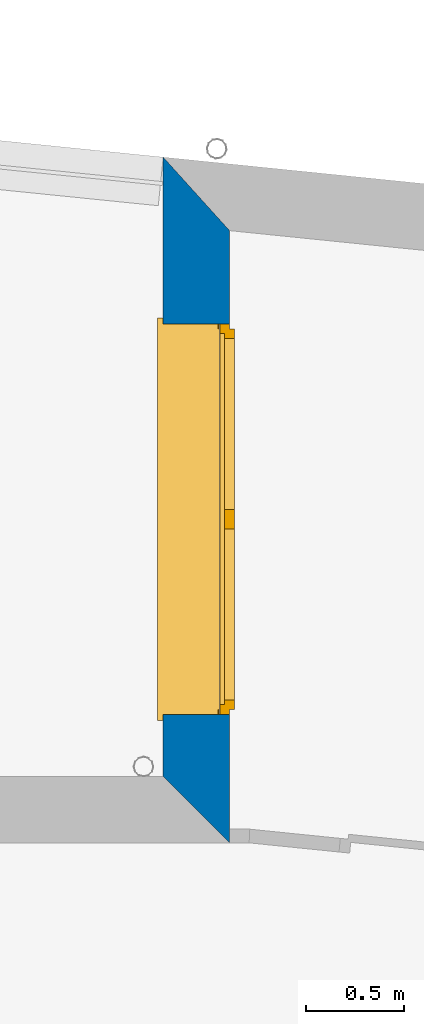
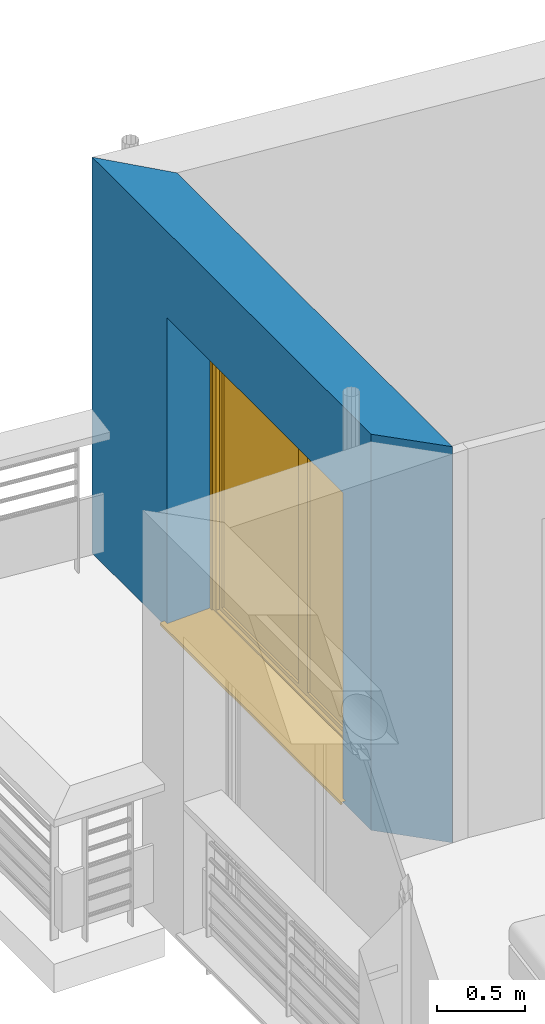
# One storey, part 62 of 164: 1 wall, 1 window, 1 opening.
"""IFC2X3 building model written with IfcOpenShell, lengths in millimetres."""

from ifc_helpers import new_model, entity, si_unit, converted_unit, derived_unit, money_unit, direction, frame, origin_with_axes, place, context, subcontext, project, spatial, polyline, outline, extrude, open_shell, faceted_brep, surface_model, source, transform, mapped, material, layer, layer_set, layer_usage, type_object, element, fill, save


model = new_model("IFC2X3")

# Units and contexts
model_context = context("Model", 3, precision=0.01, world=origin_with_axes(), true_north=direction((0.0, 1.0)))
body_context = subcontext(model_context, "Body", "Model", "MODEL_VIEW")
ifc_project = project(units=[si_unit("LENGTHUNIT", "METRE", prefix="MILLI"), si_unit("AREAUNIT", "SQUARE_METRE"), si_unit("VOLUMEUNIT", "CUBIC_METRE"), converted_unit("PLANEANGLEUNIT", "DEGREE", entity("IfcPlaneAngleMeasure", 0.0174532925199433), si_unit("PLANEANGLEUNIT", "RADIAN"), dimensions=[0, 0, 0, 0, 0, 0, 0]), money_unit("USD"), converted_unit("TIMEUNIT", "Year", entity("IfcTimeMeasure", 31557600.0), si_unit("TIMEUNIT", "SECOND"), dimensions=[0, 0, 1, 0, 0, 0, 0]), si_unit("MASSUNIT", "GRAM", prefix="KILO"), si_unit("THERMODYNAMICTEMPERATUREUNIT", "DEGREE_CELSIUS"), si_unit("LUMINOUSINTENSITYUNIT", "LUMEN"), si_unit("ENERGYUNIT", "JOULE", prefix="MEGA"), derived_unit("THERMALCONDUCTANCEUNIT", [(si_unit("POWERUNIT", "WATT"), 1), (si_unit("LENGTHUNIT", "METRE"), -1), (si_unit("THERMODYNAMICTEMPERATUREUNIT", "KELVIN"), -1)]), derived_unit("SPECIFICHEATCAPACITYUNIT", [(si_unit("ENERGYUNIT", "JOULE"), 1), (si_unit("MASSUNIT", "GRAM", prefix="KILO"), -1), (si_unit("THERMODYNAMICTEMPERATUREUNIT", "KELVIN"), -1)]), derived_unit("MASSDENSITYUNIT", [(si_unit("MASSUNIT", "GRAM", prefix="KILO"), 1), (si_unit("VOLUMEUNIT", "CUBIC_METRE"), -1)])], contexts=[model_context])

# Site, building, storey
site_placement = place(None, origin_with_axes())
site = spatial("IfcSite", under=ifc_project, at=site_placement, Name="Site", CompositionType="ELEMENT")
building_placement = place(site_placement, origin_with_axes())
building = spatial("IfcBuilding", under=site, at=building_placement, Name="Bâtiment", CompositionType="ELEMENT")
storey_placement = place(building_placement, frame((0.0, 0.0, 5750.0), z_axis=(0.0, 0.0, 1.0), x_axis=(1.0, 0.0, 0.0)))
storey = spatial("IfcBuildingStorey", under=building, at=storey_placement, Name="Etage1", CompositionType="ELEMENT", Elevation=5750.0)

# Wall, opening, window
ifc_material_1 = material(Name="Parpaing 312445824")
ifc_layer_1 = layer(ifc_material_1, 180.0, ventilated="UNKNOWN")
ifc_material_2 = material(Name="Isolant styromousse 301821074")
ifc_layer_2 = layer(ifc_material_2, 160.0, ventilated="UNKNOWN")
ifc_layer_set = layer_set([ifc_layer_1, ifc_layer_2], Name="isol int 18+16 0018356637")
ifc_layer_usage = layer_usage(ifc_layer_set, "AXIS2", "POSITIVE", 0.0)
wall_type = type_object("IfcWallType", Name="isol int 18+16 0018356637 340", PredefinedType="NOTDEFINED")
wall_placement = place(storey_placement, frame((2218134.233344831, -603995.4743528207, 0.0), z_axis=(0.0, 0.0, 1.0), x_axis=(0.0, -1.0, 0.0)))
wall = element("IfcWallStandardCase", 1, at=wall_placement, inside=storey, type_object=wall_type, material=ifc_layer_usage, Name="Mur-143", context=body_context, shape_type="SweptSolid", body=[
    extrude(outline(polyline([(0.0, 0.0), (3171.913547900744, 0.0), (3511.913547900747, 340.0000000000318), (376.3032956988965, 340.0000000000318), (0.0, 0.0)])), origin_with_axes(), (0.0, 0.0, 1.0), 2750.0),
])
opening_placement = place(wall_placement, frame((1854.033429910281, 0.0, 0.0), z_axis=(0.0, 0.0, 1.0), x_axis=(1.0, 0.0, 0.0)))
opening = element("IfcOpeningElement", 2, at=opening_placement, cuts=wall, Name="Fen-207", context=body_context, shape_type="Brep", body=[
    faceted_brep([(-1000.0, 290.0000000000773, 2150.0), (-1000.0, 341.0000000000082, 2150.0), (-1000.0, 341.0000000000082, 0.0), (-1000.0, 290.0000000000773, 0.0), (-1000.0, 280.0000000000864, 2150.0), (-1000.0, 280.0000000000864, 2400.0), (-1000.0, 530.0000000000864, 2400.0), (-1000.0, 530.0000000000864, 2150.0), (1000.0, 341.0000000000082, 2150.0), (1000.0, 341.0000000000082, 0.0), (1000.0, 290.0000000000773, 0.0), (1000.0, -0.9999999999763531, 0.0), (-1000.0, -0.9999999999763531, 0.0), (-1000.0, -0.9999999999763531, 2150.0), (1000.0, 280.0000000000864, 2150.0), (1000.0, 280.0000000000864, 2400.0), (1000.0, 530.0000000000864, 2400.0), (1000.0, 530.0000000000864, 2150.0), (1000.0, 290.0000000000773, 2150.0), (1000.0, -0.9999999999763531, 2150.0)], [[[0, 1, 2, 3]], [[1, 0, 4, 5, 6, 7]], [[1, 8, 9, 2]], [[10, 11, 12, 3, 2, 9]], [[4, 0, 3, 12, 13]], [[4, 14, 15, 5]], [[6, 5, 15, 16]], [[7, 6, 16, 17]], [[8, 1, 7, 17]], [[8, 18, 10, 9]], [[18, 14, 19, 11, 10]], [[13, 12, 11, 19]], [[14, 4, 13, 19]], [[18, 8, 17, 16, 15, 14]]]),
])
window_style = type_object("IfcWindowStyle", Name="Fenêtre châssis double variable 27", ConstructionType="NOTDEFINED", OperationType="DOUBLE_PANEL_VERTICAL", ParameterTakesPrecedence=False, Sizeable=False)
shared_shape = source(origin_with_axes(), body_context, "Body", "SurfaceModel", [
    surface_model("IfcShellBasedSurfaceModel", [(-1000.0, -51.00000000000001, 40.00000000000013), (1000.0, -51.00000000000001, 40.0), (1000.0, -51.00000000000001, 50.0), (-1000.0, -51.00000000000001, 50.00000000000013), (-1030.0, -369.9999999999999, 28.96551724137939), (1030.0, -369.9999999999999, 28.96551724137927), (1030.0, -339.9999999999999, 30.00324289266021), (1000.0, -339.9999999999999, 30.00324289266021), (-1000.0, -339.9999999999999, 30.00324289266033), (-1030.0, -339.9999999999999, 30.00324289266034), (-1030.0, -369.9999999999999, 8.965517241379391), (1030.0, -369.9999999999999, 8.965517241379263), (-1030.0, -359.9999999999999, 18.96551724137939), (1030.0, -359.9999999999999, 18.96551724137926)], [open_shell([[[0, 1, 2, 3]], [[4, 5, 6, 7, 1, 0, 8, 9]], [[10, 11, 5, 4]], [[12, 13, 11, 10]]])]),
    faceted_brep([(1000.0, -60.00000000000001, 2400.0), (1000.0, 190.0, 2400.0), (997.0, 190.0, 2400.0), (997.0, -60.00000000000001, 2400.0), (1000.0, -60.00000000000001, 2150.0), (1000.0, 190.0, 2150.0), (997.0, 190.0, 2150.0), (997.0, -60.00000000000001, 2150.0)], [[[0, 1, 2, 3]], [[0, 4, 5, 1]], [[1, 5, 6, 2]], [[3, 2, 6, 7]], [[4, 0, 3, 7]], [[5, 4, 7, 6]]]),
    faceted_brep([(-997.0000000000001, -59.99999999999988, 2400.0), (-997.0000000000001, 190.0000000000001, 2400.0), (-1000.0, 190.0000000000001, 2400.0), (-1000.0, -59.99999999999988, 2400.0), (-997.0000000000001, -59.99999999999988, 2150.0), (-997.0000000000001, 190.0000000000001, 2150.0), (-1000.0, 190.0000000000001, 2150.0), (-1000.0, -59.99999999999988, 2150.0)], [[[0, 1, 2, 3]], [[0, 4, 5, 1]], [[1, 5, 6, 2]], [[3, 2, 6, 7]], [[4, 0, 3, 7]], [[5, 4, 7, 6]]]),
    faceted_brep([(997.0, -60.0, 2150.0), (997.0, -60.0, 2400.0), (-997.0, -59.99999999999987, 2400.0), (-997.0, -59.99999999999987, 2150.0), (997.0, -56.99999999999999, 2150.0), (997.0, -56.99999999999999, 2397.0), (997.0, 187.0, 2397.0), (997.0, 187.0, 2153.0), (997.0, -37.99999999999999, 2153.0), (997.0, -37.99999999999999, 2150.0), (997.0, 190.0, 2150.0), (997.0, 190.0, 2400.0), (-997.0, 190.0000000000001, 2400.0), (-997.0, 190.0000000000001, 2150.0), (-997.0, -37.99999999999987, 2150.0), (-997.0, -37.99999999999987, 2153.0), (-997.0, 187.0000000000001, 2153.0), (-997.0, 187.0000000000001, 2397.0), (-997.0, -56.99999999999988, 2397.0), (-997.0, -56.99999999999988, 2150.0)], [[[0, 1, 2, 3]], [[0, 4, 5, 6, 7, 8, 9, 10, 11, 1]], [[1, 11, 12, 2]], [[3, 2, 12, 13, 14, 15, 16, 17, 18, 19]], [[4, 0, 3, 19]], [[5, 4, 19, 18]], [[6, 5, 18, 17]], [[7, 6, 17, 16]], [[8, 7, 16, 15]], [[9, 8, 15, 14]], [[10, 9, 14, 13]], [[11, 10, 13, 12]]]),
    faceted_brep([(994.0, -40.37442957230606, 2256.419644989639), (994.0, -35.54711042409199, 2238.403844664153), (994.0, -27.66471820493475, 2221.5), (994.0, -16.9667554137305, 2206.22172576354), (994.0, -3.778274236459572, 2193.033244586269), (994.0, 11.50000000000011, 2182.335281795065), (994.0, 28.40384466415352, 2174.452889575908), (994.0, 46.4196449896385, 2169.625570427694), (994.0, 65.00000000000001, 2168.0), (994.0, 83.58035501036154, 2169.625570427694), (994.0, 101.5961553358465, 2174.452889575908), (994.0, 118.4999999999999, 2182.335281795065), (994.0, 133.7782742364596, 2193.033244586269), (994.0, 146.9667554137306, 2206.22172576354), (994.0, 157.6647182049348, 2221.5), (994.0, 165.5471104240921, 2238.403844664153), (994.0, 170.3744295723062, 2256.419644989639), (994.0, 171.9999999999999, 2275.0), (994.0, 170.3744295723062, 2293.580355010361), (994.0, 165.5471104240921, 2311.596155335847), (994.0, 157.6647182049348, 2328.5), (994.0, 146.9667554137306, 2343.77827423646), (994.0, 133.7782742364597, 2356.96675541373), (994.0, 118.5, 2367.664718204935), (994.0, 101.5961553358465, 2375.547110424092), (994.0, 83.58035501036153, 2380.374429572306), (994.0, 64.99999999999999, 2382.0), (994.0, 46.41964498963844, 2380.374429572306), (994.0, 28.40384466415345, 2375.547110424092), (994.0, 11.5, 2367.664718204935), (994.0, -3.778274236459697, 2356.96675541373), (994.0, -16.96675541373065, 2343.77827423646), (994.0, -27.66471820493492, 2328.5), (994.0, -35.54711042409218, 2311.596155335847), (994.0, -40.37442957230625, 2293.580355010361), (994.0, -41.99999999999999, 2275.0), (-994.0, -40.37442957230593, 2256.419644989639), (-994.0, -35.54711042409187, 2238.403844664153), (-994.0, -27.66471820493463, 2221.5), (-994.0, -16.96675541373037, 2206.22172576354), (-994.0, -3.778274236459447, 2193.033244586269), (-994.0, 11.50000000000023, 2182.335281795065), (-994.0, 28.40384466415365, 2174.452889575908), (-994.0, 46.41964498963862, 2169.625570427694), (-994.0, 65.00000000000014, 2168.0), (-994.0, 83.58035501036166, 2169.625570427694), (-994.0, 101.5961553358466, 2174.452889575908), (-994.0, 118.5000000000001, 2182.335281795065), (-994.0, 133.7782742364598, 2193.033244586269), (-994.0, 146.9667554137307, 2206.22172576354), (-994.0, 157.6647182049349, 2221.5), (-994.0, 165.5471104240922, 2238.403844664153), (-994.0, 170.3744295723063, 2256.419644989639), (-994.0, 172.0, 2275.0), (-994.0, 170.3744295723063, 2293.580355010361), (-994.0, 165.5471104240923, 2311.596155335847), (-994.0, 157.664718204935, 2328.5), (-994.0, 146.9667554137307, 2343.77827423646), (-994.0, 133.7782742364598, 2356.96675541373), (-994.0, 118.5000000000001, 2367.664718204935), (-994.0, 101.5961553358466, 2375.547110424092), (-994.0, 83.58035501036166, 2380.374429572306), (-994.0, 65.00000000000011, 2382.0), (-994.0, 46.41964498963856, 2380.374429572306), (-994.0, 28.40384466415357, 2375.547110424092), (-994.0, 11.50000000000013, 2367.664718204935), (-994.0, -3.778274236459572, 2356.96675541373), (-994.0, -16.96675541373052, 2343.77827423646), (-994.0, -27.6647182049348, 2328.5), (-994.0, -35.54711042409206, 2311.596155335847), (-994.0, -40.37442957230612, 2293.580355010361), (-994.0, -41.99999999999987, 2275.0)], [[[0, 1, 2, 3, 4, 5, 6, 7, 8, 9, 10, 11, 12, 13, 14, 15, 16, 17, 18, 19, 20, 21, 22, 23, 24, 25, 26, 27, 28, 29, 30, 31, 32, 33, 34, 35]], [[1, 0, 36, 37]], [[2, 1, 37, 38]], [[3, 2, 38, 39]], [[4, 3, 39, 40]], [[5, 4, 40, 41]], [[6, 5, 41, 42]], [[7, 6, 42, 43]], [[8, 7, 43, 44]], [[9, 8, 44, 45]], [[10, 9, 45, 46]], [[11, 10, 46, 47]], [[12, 11, 47, 48]], [[13, 12, 48, 49]], [[14, 13, 49, 50]], [[15, 14, 50, 51]], [[16, 15, 51, 52]], [[17, 16, 52, 53]], [[18, 17, 53, 54]], [[19, 18, 54, 55]], [[20, 19, 55, 56]], [[21, 20, 56, 57]], [[22, 21, 57, 58]], [[23, 22, 58, 59]], [[24, 23, 59, 60]], [[25, 24, 60, 61]], [[26, 25, 61, 62]], [[27, 26, 62, 63]], [[28, 27, 63, 64]], [[29, 28, 64, 65]], [[30, 29, 65, 66]], [[31, 30, 66, 67]], [[32, 31, 67, 68]], [[33, 32, 68, 69]], [[34, 33, 69, 70]], [[35, 34, 70, 71]], [[0, 35, 71, 36]], [[36, 71, 70, 69, 68, 67, 66, 65, 64, 63, 62, 61, 60, 59, 58, 57, 56, 55, 54, 53, 52, 51, 50, 49, 48, 47, 46, 45, 44, 43, 42, 41, 40, 39, 38, 37]]]),
    faceted_brep([(-1000.0, -34.99999999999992, 30.0), (-1000.0, -59.99999999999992, 30.0), (-1000.0, -59.99999999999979, 2150.0), (-1000.0, -34.99999999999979, 2150.0), (-975.0, -34.99999999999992, 30.0), (-975.0, -37.99999999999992, 30.0), (-997.0, -37.99999999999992, 30.0), (-997.0, -56.99999999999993, 30.0), (-975.0, -56.99999999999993, 30.0), (-975.0, -59.99999999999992, 30.0), (-975.0, -59.99999999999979, 2150.0), (-975.0, -56.99999999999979, 2150.0), (-997.0, -56.99999999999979, 2150.0), (-997.0, -37.99999999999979, 2150.0), (-975.0, -37.99999999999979, 2150.0), (-975.0, -34.99999999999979, 2150.0)], [[[0, 1, 2, 3]], [[0, 4, 5, 6, 7, 8, 9, 1]], [[1, 9, 10, 2]], [[3, 2, 10, 11, 12, 13, 14, 15]], [[4, 0, 3, 15]], [[5, 4, 15, 14]], [[6, 5, 14, 13]], [[7, 6, 13, 12]], [[8, 7, 12, 11]], [[9, 8, 11, 10]]]),
    faceted_brep([(1000.0, -34.99999999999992, 30.0), (1000.0, -34.99999999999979, 2150.0), (1000.0, -59.99999999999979, 2150.0), (1000.0, -59.99999999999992, 30.0), (975.0, -34.99999999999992, 30.0), (975.0, -34.99999999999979, 2150.0), (975.0, -37.99999999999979, 2150.0), (997.0, -37.99999999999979, 2150.0), (997.0, -56.99999999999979, 2150.0), (975.0, -56.99999999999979, 2150.0), (975.0, -59.99999999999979, 2150.0), (975.0, -59.99999999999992, 30.0), (975.0, -56.99999999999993, 30.0), (997.0, -56.99999999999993, 30.0), (997.0, -37.99999999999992, 30.0), (975.0, -37.99999999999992, 30.0)], [[[0, 1, 2, 3]], [[4, 5, 1, 0]], [[1, 5, 6, 7, 8, 9, 10, 2]], [[3, 2, 10, 11]], [[0, 3, 11, 12, 13, 14, 15, 4]], [[15, 6, 5, 4]], [[14, 7, 6, 15]], [[13, 8, 7, 14]], [[12, 9, 8, 13]], [[11, 10, 9, 12]]]),
    faceted_brep([(-997.0, -46.66666666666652, 2275.0), (997.0, -46.66666666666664, 2275.0), (997.0, -46.66666666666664, 2266.666666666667), (-997.0, -46.66666666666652, 2266.666666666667), (-997.0, -51.66666666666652, 2275.0), (997.0, -51.66666666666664, 2275.0), (997.0, -51.66666666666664, 2266.666666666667), (997.0, -49.99999999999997, 2250.0), (997.0, -44.99999999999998, 2250.0), (-997.0, -44.99999999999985, 2250.0), (-997.0, -49.99999999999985, 2250.0), (-997.0, -51.66666666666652, 2266.666666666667)], [[[0, 1, 2, 3]], [[1, 0, 4, 5]], [[1, 5, 6, 7, 8, 2]], [[2, 8, 9, 3]], [[4, 0, 3, 9, 10, 11]], [[6, 5, 4, 11]], [[7, 6, 11, 10]], [[8, 7, 10, 9]]]),
    faceted_brep([(997.0, -44.99999999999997, 2250.0), (997.0, -46.66666666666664, 2233.333333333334), (-997.0, -46.66666666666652, 2233.333333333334), (-997.0, -44.99999999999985, 2250.0), (997.0, -49.99999999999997, 2250.0), (997.0, -51.66666666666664, 2233.333333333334), (997.0, -51.66666666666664, 2216.666666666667), (997.0, -49.99999999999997, 2200.0), (997.0, -44.99999999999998, 2200.0), (997.0, -46.66666666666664, 2216.666666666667), (-997.0, -46.66666666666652, 2216.666666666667), (-997.0, -44.99999999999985, 2200.0), (-997.0, -49.99999999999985, 2200.0), (-997.0, -51.66666666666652, 2216.666666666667), (-997.0, -51.66666666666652, 2233.333333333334), (-997.0, -49.99999999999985, 2250.0)], [[[0, 1, 2, 3]], [[0, 4, 5, 6, 7, 8, 9, 1]], [[1, 9, 10, 2]], [[3, 2, 10, 11, 12, 13, 14, 15]], [[4, 0, 3, 15]], [[5, 4, 15, 14]], [[6, 5, 14, 13]], [[7, 6, 13, 12]], [[8, 7, 12, 11]], [[9, 8, 11, 10]]]),
    faceted_brep([(997.0, -44.99999999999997, 2200.0), (997.0, -46.66666666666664, 2183.333333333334), (-997.0, -46.66666666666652, 2183.333333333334), (-997.0, -44.99999999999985, 2200.0), (997.0, -49.99999999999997, 2200.0), (997.0, -51.66666666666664, 2183.333333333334), (997.0, -51.66666666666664, 2166.666666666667), (997.0, -49.99999999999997, 2150.000000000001), (997.0, -44.99999999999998, 2150.000000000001), (997.0, -46.66666666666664, 2166.666666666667), (-997.0, -46.66666666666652, 2166.666666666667), (-997.0, -44.99999999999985, 2150.000000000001), (-997.0, -49.99999999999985, 2150.000000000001), (-997.0, -51.66666666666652, 2166.666666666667), (-997.0, -51.66666666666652, 2183.333333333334), (-997.0, -49.99999999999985, 2200.0)], [[[0, 1, 2, 3]], [[0, 4, 5, 6, 7, 8, 9, 1]], [[1, 9, 10, 2]], [[3, 2, 10, 11, 12, 13, 14, 15]], [[4, 0, 3, 15]], [[5, 4, 15, 14]], [[6, 5, 14, 13]], [[7, 6, 13, 12]], [[8, 7, 12, 11]], [[9, 8, 11, 10]]]),
    faceted_brep([(975.0, 0.0, 2100.0), (975.0, -25.00000000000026, 2100.0), (950.0, -25.00000000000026, 2100.0), (950.0, -50.00000000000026, 2100.0), (1000.0, -50.00000000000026, 2100.0), (1000.0, 0.0, 2100.0), (975.0, 0.0, 50.00000000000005), (975.0, -25.00000000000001, 50.00000000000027), (950.0, -25.00000000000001, 50.00000000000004), (950.0, -50.00000000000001, 50.00000000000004), (1000.0, -50.00000000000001, 50.00000000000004), (1000.0, 0.0, 50.00000000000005)], [[[0, 1, 2, 3, 4, 5]], [[1, 0, 6, 7]], [[8, 2, 1, 7]], [[2, 8, 9, 3]], [[4, 3, 9, 10]], [[5, 4, 10, 11]], [[6, 0, 5, 11]], [[7, 6, 11, 10, 9, 8]]]),
    faceted_brep([(-950.0, -25.00000000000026, 2100.0), (-975.0, -25.00000000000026, 2100.0), (-975.0, 0.0, 2100.0), (-1000.0, 0.0, 2100.0), (-1000.0, -50.00000000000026, 2100.0), (-950.0, -50.00000000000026, 2100.0), (-950.0, -25.00000000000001, 50.00000000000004), (-975.0, -25.00000000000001, 50.00000000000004), (-975.0, 0.0, 50.00000000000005), (-1000.0, 0.0, 50.00000000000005), (-1000.0, -50.00000000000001, 50.00000000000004), (-950.0, -50.00000000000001, 50.00000000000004)], [[[0, 1, 2, 3, 4, 5]], [[1, 0, 6, 7]], [[8, 2, 1, 7]], [[2, 8, 9, 3]], [[9, 10, 4, 3]], [[10, 11, 5, 4]], [[6, 0, 5, 11]], [[7, 6, 11, 10, 9, 8]]]),
    faceted_brep([(-950.0, -25.00000000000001, 50.00000000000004), (-975.0, -25.00000000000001, 50.00000000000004), (-975.0, 0.0, 50.00000000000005), (-1000.0, 0.0, 50.00000000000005), (-1000.0, -50.00000000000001, 50.00000000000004), (-950.0, -50.00000000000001, 50.00000000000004), (950.0, -25.00000000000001, 50.00000000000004), (975.0, -25.00000000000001, 50.00000000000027), (975.0, -25.0, 24.99999999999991), (-975.0, -25.0, 24.99999999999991), (-975.0, 0.0, 24.99999999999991), (975.0, 0.0, 24.99999999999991), (975.0, 0.0, 50.00000000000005), (1000.0, 0.0, 50.00000000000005), (1000.0, 0.0, 0.0), (-1000.0, 0.0, 0.0), (-1000.0, -50.0, 0.0), (1000.0, -50.00000000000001, 50.00000000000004), (950.0, -50.00000000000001, 50.00000000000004), (1000.0, -50.0, 0.0)], [[[0, 1, 2, 3, 4, 5]], [[1, 0, 6, 7, 8, 9]], [[10, 2, 1, 9]], [[11, 12, 13, 14, 15, 3, 2, 10]], [[15, 16, 4, 3]], [[17, 18, 5, 4, 16, 19]], [[6, 0, 5, 18]], [[7, 6, 18, 17, 13, 12]], [[7, 12, 11, 8]], [[11, 10, 9, 8]], [[13, 17, 19, 14]], [[14, 19, 16, 15]]]),
    faceted_brep([(975.0, 0.0, 2100.0), (975.0, 0.0, 2125.0), (-975.0, 0.0, 2125.0), (-975.0, 0.0, 2100.0), (-1000.0, 0.0, 2100.0), (-1000.0, 0.0, 2150.0), (1000.0, 0.0, 2150.0), (1000.0, 0.0, 2100.0), (975.0, -25.00000000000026, 2100.0), (975.0, -25.00000000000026, 2125.0), (-975.0, -25.00000000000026, 2125.0), (-975.0, -25.00000000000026, 2100.0), (-950.0, -25.00000000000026, 2100.0), (-950.0, -50.00000000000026, 2100.0), (-1000.0, -50.00000000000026, 2100.0), (-1000.0, -50.00000000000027, 2150.0), (1000.0, -50.00000000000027, 2150.0), (1000.0, -50.00000000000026, 2100.0), (950.0, -50.00000000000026, 2100.0), (950.0, -25.00000000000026, 2100.0)], [[[0, 1, 2, 3, 4, 5, 6, 7]], [[1, 0, 8, 9]], [[2, 1, 9, 10]], [[3, 2, 10, 11]], [[11, 12, 13, 14, 4, 3]], [[4, 14, 15, 5]], [[5, 15, 16, 6]], [[6, 16, 17, 7]], [[8, 0, 7, 17, 18, 19]], [[12, 11, 10, 9, 8, 19]], [[12, 19, 18, 13]], [[14, 13, 18, 17, 16, 15]]]),
    faceted_brep([(925.0, -25.00000000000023, 2075.0), (975.0, -25.00000000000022, 2075.0), (975.0, 24.99999999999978, 2075.0), (925.0, 24.99999999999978, 2075.0), (925.0, -24.99999999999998, 75.00000000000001), (975.0, -24.99999999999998, 75.00000000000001), (975.0, 25.00000000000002, 75.00000000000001), (925.0, 25.00000000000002, 75.00000000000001)], [[[0, 1, 2, 3]], [[0, 4, 5, 1]], [[1, 5, 6, 2]], [[3, 2, 6, 7]], [[4, 0, 3, 7]], [[5, 4, 7, 6]]]),
    faceted_brep([(49.99999999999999, -25.00000000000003, 75.00000000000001), (0.0, -25.00000000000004, 75.00000000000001), (0.0, 24.99999999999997, 75.00000000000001), (49.99999999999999, 24.99999999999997, 75.00000000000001), (49.99999999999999, -25.00000000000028, 2075.0), (0.0, -25.00000000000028, 2075.0), (0.0, 24.99999999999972, 2075.0), (49.99999999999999, 24.99999999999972, 2075.0)], [[[0, 1, 2, 3]], [[0, 4, 5, 1]], [[1, 5, 6, 2]], [[3, 2, 6, 7]], [[4, 0, 3, 7]], [[5, 4, 7, 6]]]),
    faceted_brep([(0.0, -25.00000000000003, 25.0), (0.0, -25.00000000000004, 75.00000000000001), (0.0, 24.99999999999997, 75.00000000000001), (0.0, 24.99999999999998, 25.00000000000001), (975.0, -24.99999999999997, 25.0), (975.0, -24.99999999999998, 75.00000000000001), (925.0, -24.99999999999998, 75.00000000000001), (49.99999999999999, -25.00000000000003, 75.00000000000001), (49.99999999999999, 24.99999999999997, 75.00000000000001), (925.0, 25.00000000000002, 75.00000000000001), (975.0, 25.00000000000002, 75.00000000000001), (975.0, 25.00000000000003, 25.00000000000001)], [[[0, 1, 2, 3]], [[0, 4, 5, 6, 7, 1]], [[1, 7, 8, 2]], [[3, 2, 8, 9, 10, 11]], [[4, 0, 3, 11]], [[5, 4, 11, 10]], [[6, 5, 10, 9]], [[7, 6, 9, 8]]]),
    faceted_brep([(975.0, -25.00000000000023, 2125.0), (975.0, -25.00000000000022, 2075.0), (975.0, 24.99999999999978, 2075.0), (975.0, 24.99999999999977, 2125.0), (0.0, -25.00000000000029, 2125.0), (0.0, -25.00000000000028, 2075.0), (49.99999999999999, -25.00000000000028, 2075.0), (925.0, -25.00000000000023, 2075.0), (925.0, 24.99999999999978, 2075.0), (49.99999999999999, 24.99999999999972, 2075.0), (0.0, 24.99999999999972, 2075.0), (0.0, 24.99999999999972, 2125.0)], [[[0, 1, 2, 3]], [[0, 4, 5, 6, 7, 1]], [[1, 7, 8, 2]], [[3, 2, 8, 9, 10, 11]], [[4, 0, 3, 11]], [[5, 4, 11, 10]], [[6, 5, 10, 9]], [[7, 6, 9, 8]]]),
    surface_model("IfcShellBasedSurfaceModel", [(925.0, -10.00000000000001, 75.00000000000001), (925.0, -10.00000000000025, 2075.0), (49.99999999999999, -10.00000000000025, 2075.0), (49.99999999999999, -10.00000000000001, 75.00000000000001)], [open_shell([[[0, 1, 2, 3]]])]),
    surface_model("IfcShellBasedSurfaceModel", [(925.0, 9.999999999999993, 75.00000000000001), (49.99999999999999, 9.999999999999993, 75.00000000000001), (49.99999999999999, 9.99999999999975, 2075.0), (925.0, 9.99999999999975, 2075.0)], [open_shell([[[0, 1, 2, 3]]])]),
    faceted_brep([(-49.99999999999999, -25.00000000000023, 2075.0), (0.0, -25.00000000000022, 2075.0), (0.0, 24.99999999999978, 2075.0), (-49.99999999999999, 24.99999999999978, 2075.0), (-49.99999999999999, -24.99999999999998, 75.00000000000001), (0.0, -24.99999999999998, 75.00000000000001), (0.0, 25.00000000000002, 75.00000000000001), (-49.99999999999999, 25.00000000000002, 75.00000000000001)], [[[0, 1, 2, 3]], [[0, 4, 5, 1]], [[1, 5, 6, 2]], [[3, 2, 6, 7]], [[4, 0, 3, 7]], [[5, 4, 7, 6]]]),
    faceted_brep([(-925.0, -25.00000000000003, 75.00000000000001), (-975.0, -25.00000000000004, 75.00000000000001), (-975.0, 24.99999999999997, 75.00000000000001), (-925.0, 24.99999999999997, 75.00000000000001), (-925.0, -25.00000000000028, 2075.0), (-975.0, -25.00000000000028, 2075.0), (-975.0, 24.99999999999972, 2075.0), (-925.0, 24.99999999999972, 2075.0)], [[[0, 1, 2, 3]], [[0, 4, 5, 1]], [[1, 5, 6, 2]], [[3, 2, 6, 7]], [[4, 0, 3, 7]], [[5, 4, 7, 6]]]),
    faceted_brep([(-975.0, -25.00000000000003, 25.0), (-975.0, -25.00000000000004, 75.00000000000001), (-975.0, 24.99999999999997, 75.00000000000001), (-975.0, 24.99999999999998, 25.00000000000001), (0.0, -24.99999999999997, 25.0), (0.0, -24.99999999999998, 75.00000000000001), (-49.99999999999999, -24.99999999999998, 75.00000000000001), (-925.0, -25.00000000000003, 75.00000000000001), (-925.0, 24.99999999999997, 75.00000000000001), (-49.99999999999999, 25.00000000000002, 75.00000000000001), (0.0, 25.00000000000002, 75.00000000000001), (0.0, 25.00000000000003, 25.00000000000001)], [[[0, 1, 2, 3]], [[0, 4, 5, 6, 7, 1]], [[1, 7, 8, 2]], [[3, 2, 8, 9, 10, 11]], [[4, 0, 3, 11]], [[5, 4, 11, 10]], [[6, 5, 10, 9]], [[7, 6, 9, 8]]]),
    faceted_brep([(0.0, -25.00000000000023, 2125.0), (0.0, -25.00000000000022, 2075.0), (0.0, 24.99999999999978, 2075.0), (0.0, 24.99999999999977, 2125.0), (-975.0, -25.00000000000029, 2125.0), (-975.0, -25.00000000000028, 2075.0), (-925.0, -25.00000000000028, 2075.0), (-49.99999999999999, -25.00000000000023, 2075.0), (-49.99999999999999, 24.99999999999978, 2075.0), (-925.0, 24.99999999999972, 2075.0), (-975.0, 24.99999999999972, 2075.0), (-975.0, 24.99999999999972, 2125.0)], [[[0, 1, 2, 3]], [[0, 4, 5, 6, 7, 1]], [[1, 7, 8, 2]], [[3, 2, 8, 9, 10, 11]], [[4, 0, 3, 11]], [[5, 4, 11, 10]], [[6, 5, 10, 9]], [[7, 6, 9, 8]]]),
    surface_model("IfcShellBasedSurfaceModel", [(-49.99999999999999, -10.00000000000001, 75.00000000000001), (-49.99999999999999, -10.00000000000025, 2075.0), (-925.0, -10.00000000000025, 2075.0), (-925.0, -10.00000000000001, 75.00000000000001)], [open_shell([[[0, 1, 2, 3]]])]),
    surface_model("IfcShellBasedSurfaceModel", [(-49.99999999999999, 9.999999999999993, 75.00000000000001), (-925.0, 9.999999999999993, 75.00000000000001), (-925.0, 9.99999999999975, 2075.0), (-49.99999999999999, 9.99999999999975, 2075.0)], [open_shell([[[0, 1, 2, 3]]])]),
])
window_placement = place(opening_placement, frame((-999.9999999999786, 0.0, 0.0), z_axis=(0.0, 0.0, 1.0), x_axis=(1.0, 0.0, 0.0)))
window = element("IfcWindow", 3, at=window_placement, inside=storey, type_object=window_style, Name="Fen-207", OverallHeight=2150.0, OverallWidth=2000.0, context=body_context, shape_type="MappedRepresentation", body=[
    mapped(shared_shape, transform((1000.0, 340.0000000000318, 0.0))),
])
fill(opening, window)

save(model, "model.ifc")
